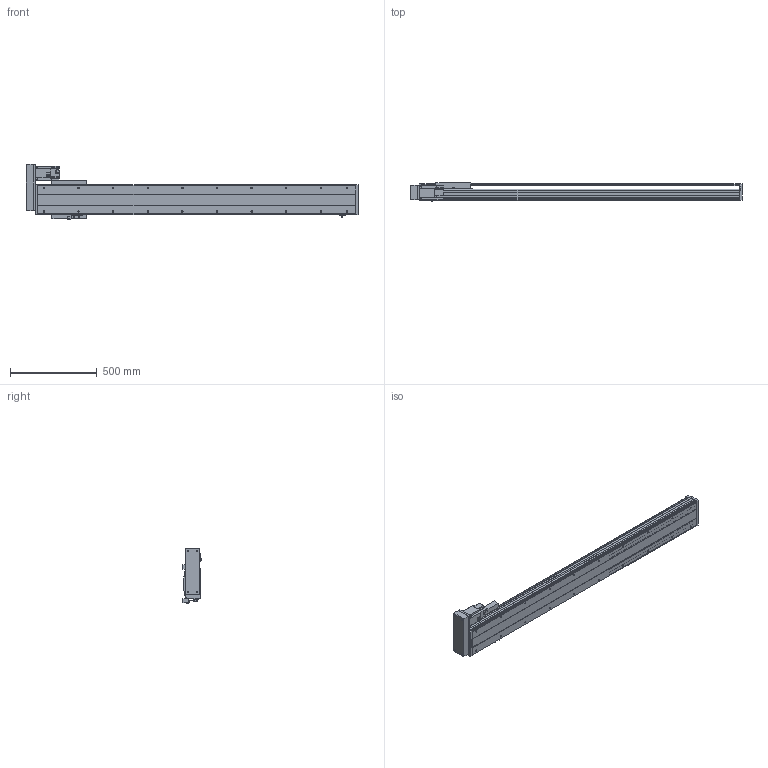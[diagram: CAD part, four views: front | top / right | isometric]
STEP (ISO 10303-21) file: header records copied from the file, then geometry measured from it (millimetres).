
FILE_DESCRIPTION( ( 'STEP AP214' ), '1' );
FILE_NAME( 'x:/temp/worker_27/temp/exporttempdir_6708_453_kw0PR/format_0/PSS200-L10-S1500-BL-T75-C1-N(0).stp', '2022-06-06T02:51:08', ( 'License CC BY-ND 4.0' ), ( 'CADENAS' ), ' ', 'PARTsolutions', ' ' );
FILE_SCHEMA( ( 'AUTOMOTIVE_DESIGN { 1 0 10303 214 1 1 1 1 }' ) );
Length unit declared in the file: millimetre
Products named in the file (8): PSS200-L10-S1500-BL-T75-C1-N(0); _PSS200-S1500-BL-C1-N_body; _PSS200-N_Q; _PSS200-BL-C1-N_sl; _PSS200-N_sensor; _PSS200BL-N_h; _T75-p1; _PSS200-S1500-BL-N_S
Assembly tree (9 placements, depth 2):
  PSS200-L10-S1500-BL-T75-C1-N(0)
    _PSS200-S1500-BL-C1-N_body
    _PSS200-N_Q
    _PSS200-BL-C1-N_sl
    _PSS200-N_sensor  x3
    _PSS200BL-N_h
    _T75-p1
    _PSS200-S1500-BL-N_S
Bounding box: 1916.85 x 105.3 x 317.86 mm (x, y, z)
Volume: 11648261.8 mm3; surface area: 2909746.7 mm2
Topology: 9 solids, 9 shells, 620 faces, 1657 edges, 1094 vertices
Faces by surface type: plane 466, cylinder 122, cone 28, sphere 4
Full cylindrical faces by diameter (mm): 4 x2, 4.5 x4, 6 x7, 6.647 x24, 7.4 x4, 8 x8, 10 x6, 25 x1, 40 x1, 67 x1
Entity records: 21630 total; most frequent: CARTESIAN_POINT 2939, DIRECTION 2852, ORIENTED_EDGE 2786, EDGE_CURVE 1393, LINE 1090, VECTOR 1090, VERTEX_POINT 968, AXIS2_PLACEMENT_3D 881
